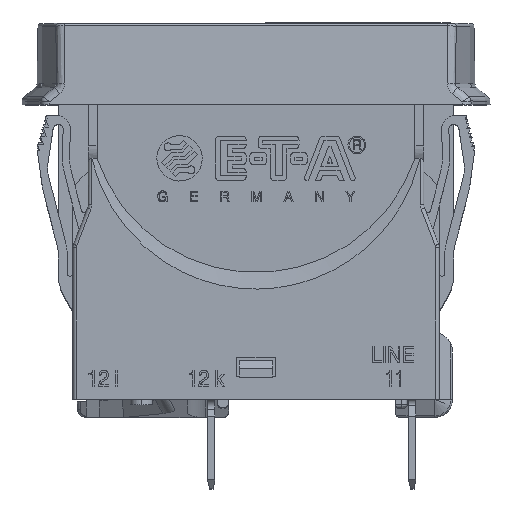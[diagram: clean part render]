
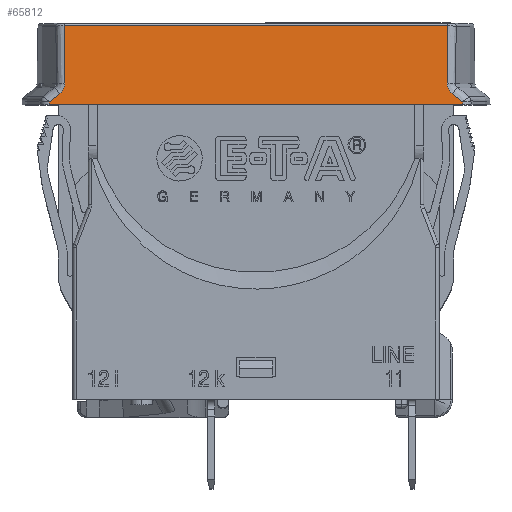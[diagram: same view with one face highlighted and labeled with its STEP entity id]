
A CAD part, top view. The second image highlights one B-rep face of the part: STEP entity #65812.
In plain terms, the highlighted planar face has unit normal (0, 0.079, 0.997).
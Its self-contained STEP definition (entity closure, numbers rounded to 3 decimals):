
#17959=CARTESIAN_POINT('',(23.124,33.,13.216));
#18005=CARTESIAN_POINT('',(-23.124,33.,13.216));
#18020=DIRECTION('',(1.,0.,0.));
#18021=VECTOR('',#18020,46.248);
#18022=CARTESIAN_POINT('',(-23.124,33.,13.216));
#18023=LINE('',#18022,#18021);
#22909=DIRECTION('',(-1.,0.,0.));
#22910=VECTOR('',#22909,42.933);
#22911=CARTESIAN_POINT('',(21.466,41.824,12.522));
#22912=LINE('',#22911,#22910);
#22913=CARTESIAN_POINT('',(21.466,41.824,12.522));
#22914=CARTESIAN_POINT('',(21.461,41.186,12.572));
#22915=CARTESIAN_POINT('',(21.449,39.862,12.676));
#22916=CARTESIAN_POINT('',(21.429,37.777,12.84));
#22917=CARTESIAN_POINT('',(21.414,36.235,12.962));
#22918=CARTESIAN_POINT('',(21.406,35.434,13.025));
#22920=CARTESIAN_POINT('',(21.406,35.434,13.025));
#22921=CARTESIAN_POINT('',(21.406,35.388,13.028));
#22922=CARTESIAN_POINT('',(21.409,35.297,13.035));
#22923=CARTESIAN_POINT('',(21.426,35.168,13.046));
#22924=CARTESIAN_POINT('',(21.454,35.037,13.056));
#22925=CARTESIAN_POINT('',(21.494,34.909,13.066));
#22926=CARTESIAN_POINT('',(21.546,34.784,13.076));
#22927=CARTESIAN_POINT('',(21.609,34.663,13.085));
#22928=CARTESIAN_POINT('',(21.682,34.55,13.094));
#22929=CARTESIAN_POINT('',(21.768,34.439,13.103));
#22930=CARTESIAN_POINT('',(21.869,34.331,13.111));
#22931=CARTESIAN_POINT('',(21.944,34.264,13.117));
#22932=CARTESIAN_POINT('',(21.984,34.233,13.119));
#22934=CARTESIAN_POINT('',(21.984,34.233,13.119));
#22935=CARTESIAN_POINT('',(22.113,34.129,13.127));
#22936=CARTESIAN_POINT('',(22.37,33.923,13.144));
#22937=CARTESIAN_POINT('',(22.737,33.628,13.167));
#22938=CARTESIAN_POINT('',(22.999,33.417,13.183));
#22939=CARTESIAN_POINT('',(23.133,33.31,13.192));
#22941=CARTESIAN_POINT('',(23.124,33.,13.216));
#22942=CARTESIAN_POINT('',(23.125,33.034,13.214));
#22943=CARTESIAN_POINT('',(23.127,33.101,13.208));
#22944=CARTESIAN_POINT('',(23.13,33.204,13.2));
#22945=CARTESIAN_POINT('',(23.132,33.274,13.195));
#22946=CARTESIAN_POINT('',(23.133,33.31,13.192));
#22948=CARTESIAN_POINT('',(-23.133,33.31,
13.192));
#22949=CARTESIAN_POINT('',(-23.131,33.259,
13.196));
#22950=CARTESIAN_POINT('',(-23.128,33.156,
13.204));
#22951=CARTESIAN_POINT('',(-23.125,33.052,
13.212));
#22952=CARTESIAN_POINT('',(-23.124,33.,13.216));
#22954=CARTESIAN_POINT('',(-21.984,34.233,
13.119));
#22955=CARTESIAN_POINT('',(-22.113,34.129,
13.127));
#22956=CARTESIAN_POINT('',(-22.371,33.922,
13.144));
#22957=CARTESIAN_POINT('',(-22.738,33.627,
13.167));
#22958=CARTESIAN_POINT('',(-23.,33.417,
13.183));
#22959=CARTESIAN_POINT('',(-23.133,33.31,
13.192));
#22961=CARTESIAN_POINT('',(-21.406,35.434,
13.025));
#22962=CARTESIAN_POINT('',(-21.406,35.388,
13.028));
#22963=CARTESIAN_POINT('',(-21.409,35.298,
13.035));
#22964=CARTESIAN_POINT('',(-21.425,35.169,
13.046));
#22965=CARTESIAN_POINT('',(-21.454,35.037,
13.056));
#22966=CARTESIAN_POINT('',(-21.494,34.908,
13.066));
#22967=CARTESIAN_POINT('',(-21.546,34.783,
13.076));
#22968=CARTESIAN_POINT('',(-21.609,34.662,
13.085));
#22969=CARTESIAN_POINT('',(-21.683,34.548,
13.094));
#22970=CARTESIAN_POINT('',(-21.77,34.437,
13.103));
#22971=CARTESIAN_POINT('',(-21.87,34.33,
13.112));
#22972=CARTESIAN_POINT('',(-21.945,34.264,
13.117));
#22973=CARTESIAN_POINT('',(-21.984,34.233,
13.119));
#22975=CARTESIAN_POINT('',(-21.466,41.824,
12.522));
#22976=CARTESIAN_POINT('',(-21.461,41.186,
12.572));
#22977=CARTESIAN_POINT('',(-21.449,39.862,
12.676));
#22978=CARTESIAN_POINT('',(-21.429,37.777,
12.84));
#22979=CARTESIAN_POINT('',(-21.414,36.235,
12.962));
#22980=CARTESIAN_POINT('',(-21.406,35.434,
13.025));
#23021=CARTESIAN_POINT('',(-21.466,41.824,
12.522));
#23493=CARTESIAN_POINT('',(21.466,41.824,12.522));
#33195=VERTEX_POINT('',#18005);
#33198=VERTEX_POINT('',#22948);
#33199=VERTEX_POINT('',#22961);
#33200=VERTEX_POINT('',#22973);
#33267=VERTEX_POINT('',#17959);
#33268=VERTEX_POINT('',#22946);
#33270=VERTEX_POINT('',#22920);
#33271=VERTEX_POINT('',#22932);
#33320=VERTEX_POINT('',#23021);
#33330=VERTEX_POINT('',#23493);
#65787=CARTESIAN_POINT('',(-25.205,42.1,12.5));
#65788=DIRECTION('',(0.,0.078,0.997));
#65789=DIRECTION('',(1.,0.,0.));
#65790=AXIS2_PLACEMENT_3D('',#65787,#65788,#65789);
#65791=PLANE('',#65790);
#65793=ORIENTED_EDGE('',*,*,#65792,.F.);
#65795=ORIENTED_EDGE('',*,*,#65794,.T.);
#65797=ORIENTED_EDGE('',*,*,#65796,.T.);
#65799=ORIENTED_EDGE('',*,*,#65798,.T.);
#65800=ORIENTED_EDGE('',*,*,#65778,.F.);
#65801=ORIENTED_EDGE('',*,*,#59964,.F.);
#65803=ORIENTED_EDGE('',*,*,#65802,.F.);
#65805=ORIENTED_EDGE('',*,*,#65804,.F.);
#65807=ORIENTED_EDGE('',*,*,#65806,.F.);
#65809=ORIENTED_EDGE('',*,*,#65808,.F.);
#65810=EDGE_LOOP('',(#65793,#65795,#65797,#65799,#65800,#65801,#65803,#65805,
#65807,#65809));
#65811=FACE_OUTER_BOUND('',#65810,.F.);
#22919=B_SPLINE_CURVE_WITH_KNOTS('',3,(#22913,#22914,#22915,#22916,#22917,
#22918),.UNSPECIFIED.,.F.,.F.,(4,1,1,4),(0.,0.333,
0.667,1.),.UNSPECIFIED.);
#22933=B_SPLINE_CURVE_WITH_KNOTS('',3,(#22920,#22921,#22922,#22923,#22924,
#22925,#22926,#22927,#22928,#22929,#22930,#22931,#22932),.UNSPECIFIED.,.F.,.F.,(
4,1,1,1,1,1,1,1,1,1,4),(0.,0.1,0.2,0.3,0.4,0.5,0.6,0.7,0.8,
0.9,1.),.UNSPECIFIED.);
#22940=B_SPLINE_CURVE_WITH_KNOTS('',3,(#22934,#22935,#22936,#22937,#22938,
#22939),.UNSPECIFIED.,.F.,.F.,(4,1,1,4),(0.,0.333,
0.667,1.),.UNSPECIFIED.);
#22947=B_SPLINE_CURVE_WITH_KNOTS('',3,(#22941,#22942,#22943,#22944,#22945,
#22946),.UNSPECIFIED.,.F.,.F.,(4,1,1,4),(0.,0.333,
0.667,1.),.UNSPECIFIED.);
#22953=B_SPLINE_CURVE_WITH_KNOTS('',3,(#22948,#22949,#22950,#22951,#22952),
.UNSPECIFIED.,.F.,.F.,(4,1,4),(0.,0.5,1.),.UNSPECIFIED.);
#22960=B_SPLINE_CURVE_WITH_KNOTS('',3,(#22954,#22955,#22956,#22957,#22958,
#22959),.UNSPECIFIED.,.F.,.F.,(4,1,1,4),(0.,0.333,
0.667,1.),.UNSPECIFIED.);
#22974=B_SPLINE_CURVE_WITH_KNOTS('',3,(#22961,#22962,#22963,#22964,#22965,
#22966,#22967,#22968,#22969,#22970,#22971,#22972,#22973),.UNSPECIFIED.,.F.,.F.,(
4,1,1,1,1,1,1,1,1,1,4),(0.,0.1,0.2,0.3,0.4,0.5,0.6,0.7,0.8,
0.9,1.),.UNSPECIFIED.);
#22981=B_SPLINE_CURVE_WITH_KNOTS('',3,(#22975,#22976,#22977,#22978,#22979,
#22980),.UNSPECIFIED.,.F.,.F.,(4,1,1,4),(0.,0.333,
0.667,1.),.UNSPECIFIED.);
#59964=EDGE_CURVE('',#33195,#33267,#18023,.T.);
#65778=EDGE_CURVE('',#33267,#33268,#22947,.T.);
#65792=EDGE_CURVE('',#33330,#33320,#22912,.T.);
#65794=EDGE_CURVE('',#33330,#33270,#22919,.T.);
#65796=EDGE_CURVE('',#33270,#33271,#22933,.T.);
#65798=EDGE_CURVE('',#33271,#33268,#22940,.T.);
#65802=EDGE_CURVE('',#33198,#33195,#22953,.T.);
#65804=EDGE_CURVE('',#33200,#33198,#22960,.T.);
#65806=EDGE_CURVE('',#33199,#33200,#22974,.T.);
#65808=EDGE_CURVE('',#33320,#33199,#22981,.T.);
#65812=ADVANCED_FACE('',(#65811),#65791,.T.);
